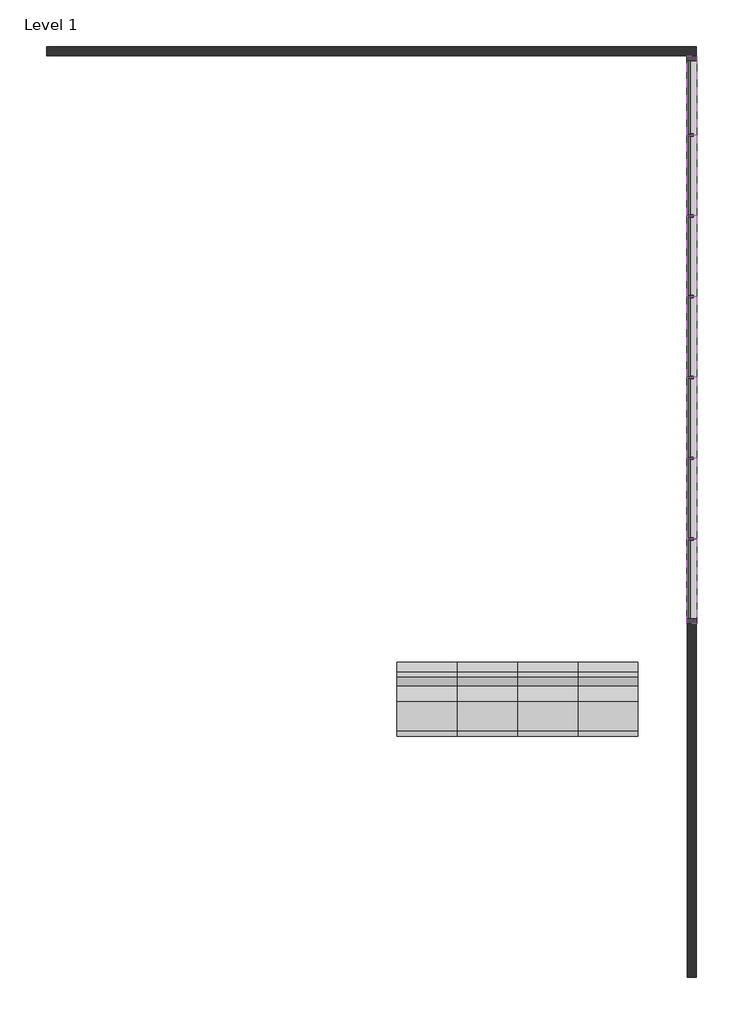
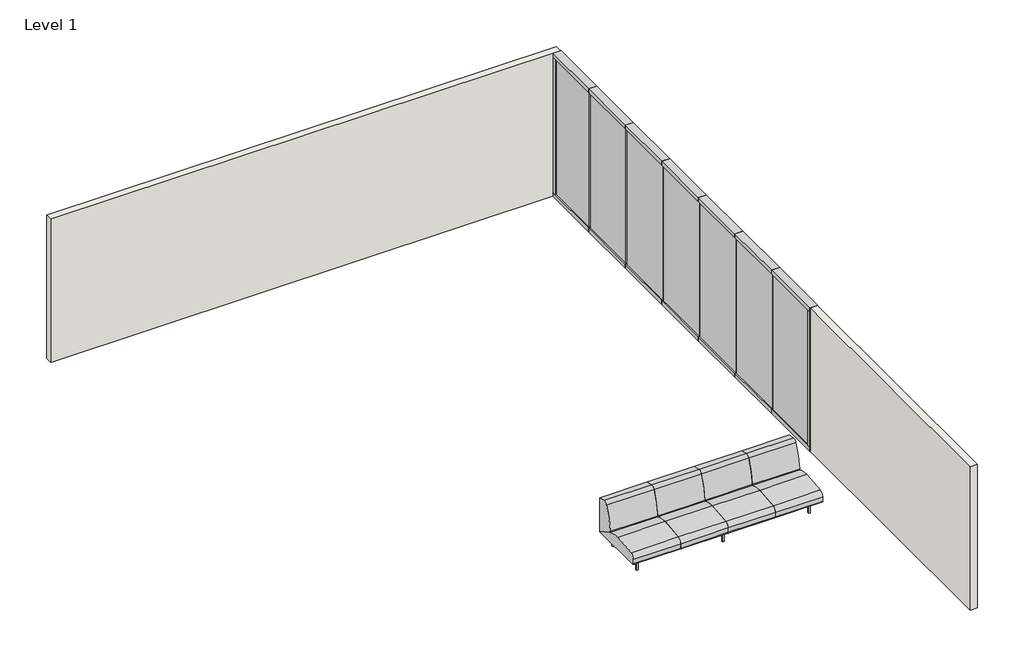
# One storey, incomplete: 22 members, 7 plates, 2 furniture elements, 2 walls.
"""IFC4 building model written with IfcOpenShell, lengths in millimetres."""

from ifc_helpers import new_model, si_unit, origin, origin_with_axes, place, context, project, spatial, polyline, outline, extrude, transform, mapped, element, save
from components import steelcase_coalesse_sistema_two_seat_leg_base_two_seat_1eb522da, steelcase_coalesse_sistema_two_seat_leg_base_two_seat_3f949230, member_c40ea337, member_f6712c19, member_9c3245fa, member_822693cb, member_03d4f0e7, system_panel_glazed_28d4eb2a, system_panel_glazed_3b5c56f7

model = new_model("IFC4")

# Units and contexts
model_context = context("Model", 3, world=origin())
ifc_project = project(units=[si_unit("LENGTHUNIT", "METRE", prefix="MILLI")], contexts=[model_context])

# Site, building, storey
site = spatial("IfcSite", under=ifc_project)
building = spatial("IfcBuilding", under=site)
storey = spatial("IfcBuildingStorey", under=building, Name="Level 1", Elevation=0.0)

# Furniture
placement = place(None, origin())
steelcase_coalesse_sistema_two_seat_leg_base_two_seat_shape = steelcase_coalesse_sistema_two_seat_leg_base_two_seat_1eb522da(model_context)
element("IfcFurniture", 1, ObjectType="Steelcase Coalesse - Sistema - Two Seat - Leg Base : Two Seat", at=placement, inside=storey, context=model_context, shape_type="MappedRepresentation", body=[
    mapped(steelcase_coalesse_sistema_two_seat_leg_base_two_seat_shape, transform((-36638.9443589, -158813.0817966, 0.0), x_axis=(1.0, 0.0, 0.0), y_axis=(0.0, 1.0, 0.0), z_axis=(0.0, 0.0, 1.0))),
])
steelcase_coalesse_sistema_two_seat_leg_base_two_seat_2_shape = steelcase_coalesse_sistema_two_seat_leg_base_two_seat_3f949230(model_context)
element("IfcFurniture", 2, ObjectType="Steelcase Coalesse - Sistema - Two Seat - Leg Base : Two Seat", at=placement, inside=storey, context=model_context, shape_type="MappedRepresentation", body=[
    mapped(steelcase_coalesse_sistema_two_seat_leg_base_two_seat_2_shape, transform((-38137.5443589, -158813.0817966, 0.0), x_axis=(1.0, 0.0, 0.0), y_axis=(0.0, 1.0, 0.0), z_axis=(0.0, 0.0, 1.0))),
])

# Members
member_shape = member_c40ea337(model_context)
element("IfcMember", 3, ObjectType="Rectangular Mullion : 0.59\" x 1.57\" rectangular", at=placement, inside=storey, context=model_context, shape_type="MappedRepresentation", body=[
    mapped(member_shape, transform((-34845.2367642, -153814.0403933, 63.5), x_axis=(0.0, -1.0, 0.0), y_axis=(-1.0, 0.0, 0.0), z_axis=(0.0, 0.0, -1.0))),
])
element("IfcMember", 4, ObjectType="Rectangular Mullion : 0.59\" x 1.57\" rectangular", at=placement, inside=storey, context=model_context, shape_type="MappedRepresentation", body=[
    mapped(member_shape, transform((-34845.2367642, -154816.8277319, 63.5), x_axis=(0.0, -1.0, 0.0), y_axis=(-1.0, 0.0, 0.0), z_axis=(0.0, 0.0, -1.0))),
])
element("IfcMember", 5, ObjectType="Rectangular Mullion : 0.59\" x 1.57\" rectangular", at=placement, inside=storey, context=model_context, shape_type="MappedRepresentation", body=[
    mapped(member_shape, transform((-34845.2367642, -155819.6150705, 63.5), x_axis=(0.0, -1.0, 0.0), y_axis=(-1.0, 0.0, 0.0), z_axis=(0.0, 0.0, -1.0))),
])
element("IfcMember", 6, ObjectType="Rectangular Mullion : 0.59\" x 1.57\" rectangular", at=placement, inside=storey, context=model_context, shape_type="MappedRepresentation", body=[
    mapped(member_shape, transform((-34845.2367642, -156822.4024092, 63.5), x_axis=(0.0, -1.0, 0.0), y_axis=(-1.0, 0.0, 0.0), z_axis=(0.0, 0.0, -1.0))),
])
element("IfcMember", 7, ObjectType="Rectangular Mullion : 0.59\" x 1.57\" rectangular", at=placement, inside=storey, context=model_context, shape_type="MappedRepresentation", body=[
    mapped(member_shape, transform((-34845.2367642, -152811.2530546, 63.5), x_axis=(0.0, -1.0, 0.0), y_axis=(-1.0, 0.0, 0.0), z_axis=(0.0, 0.0, -1.0))),
])
element("IfcMember", 8, ObjectType="Rectangular Mullion : 0.59\" x 1.57\" rectangular", at=placement, inside=storey, context=model_context, shape_type="MappedRepresentation", body=[
    mapped(member_shape, transform((-34845.2367642, -151808.465716, 63.5), x_axis=(0.0, -1.0, 0.0), y_axis=(-1.0, 0.0, 0.0), z_axis=(0.0, 0.0, -1.0))),
])
member_2_shape = member_f6712c19(model_context)
element("IfcMember", 9, ObjectType="Rectangular Mullion : 2.5\" x 5\" rectangular", at=placement, inside=storey, context=model_context, shape_type="MappedRepresentation", body=[
    mapped(member_2_shape, transform((-34845.2367642, -150820.6643771, 2336.546), x_axis=(0.0, 1.0, 0.0), y_axis=(-1.0, 0.0, 0.0), z_axis=(0.0, 0.0, 1.0))),
])
element("IfcMember", 10, ObjectType="Rectangular Mullion : 2.5\" x 5\" rectangular", at=placement, inside=storey, context=model_context, shape_type="MappedRepresentation", body=[
    mapped(member_2_shape, transform((-34845.2367642, -157873.7037481, 63.5), x_axis=(0.0, -1.0, 0.0), y_axis=(-1.0, 0.0, 0.0), z_axis=(0.0, 0.0, -1.0))),
])
member_3_shape = member_9c3245fa(model_context)
element("IfcMember", 11, ObjectType="Rectangular Mullion : 2.5\" x 5\" rectangular", at=placement, inside=storey, context=model_context, shape_type="MappedRepresentation", body=[
    mapped(member_3_shape, transform((-34845.2367642, -157873.7037481, 2400.046), x_axis=(0.0, 0.0, 1.0), y_axis=(-1.0, 0.0, 0.0), z_axis=(0.0, -1.0, 0.0))),
])
member_4_shape = member_822693cb(model_context)
element("IfcMember", 12, ObjectType="Rectangular Mullion : 2.5\" x 5\" rectangular", at=placement, inside=storey, context=model_context, shape_type="MappedRepresentation", body=[
    mapped(member_4_shape, transform((-34845.2367642, -150820.6643771, 0.0), x_axis=(0.0, 0.0, -1.0), y_axis=(-1.0, 0.0, 0.0), z_axis=(0.0, 1.0, 0.0))),
])
member_5_shape = member_03d4f0e7(model_context)
element("IfcMember", 13, ObjectType="Rectangular Mullion : 2.5\" x 5\" rectangular", at=placement, inside=storey, context=model_context, shape_type="MappedRepresentation", body=[
    mapped(member_5_shape, transform((-34845.2367642, -153814.0403933, 2400.046), x_axis=(0.0, 0.0, 1.0), y_axis=(-1.0, 0.0, 0.0), z_axis=(0.0, -1.0, 0.0))),
])
element("IfcMember", 14, ObjectType="Rectangular Mullion : 2.5\" x 5\" rectangular", at=placement, inside=storey, context=model_context, shape_type="MappedRepresentation", body=[
    mapped(member_5_shape, transform((-34845.2367642, -154816.8277319, 2400.046), x_axis=(0.0, 0.0, 1.0), y_axis=(-1.0, 0.0, 0.0), z_axis=(0.0, -1.0, 0.0))),
])
element("IfcMember", 15, ObjectType="Rectangular Mullion : 2.5\" x 5\" rectangular", at=placement, inside=storey, context=model_context, shape_type="MappedRepresentation", body=[
    mapped(member_5_shape, transform((-34845.2367642, -155819.6150705, 2400.046), x_axis=(0.0, 0.0, 1.0), y_axis=(-1.0, 0.0, 0.0), z_axis=(0.0, -1.0, 0.0))),
])
element("IfcMember", 16, ObjectType="Rectangular Mullion : 2.5\" x 5\" rectangular", at=placement, inside=storey, context=model_context, shape_type="MappedRepresentation", body=[
    mapped(member_5_shape, transform((-34845.2367642, -156822.4024092, 2400.046), x_axis=(0.0, 0.0, 1.0), y_axis=(-1.0, 0.0, 0.0), z_axis=(0.0, -1.0, 0.0))),
])
element("IfcMember", 17, ObjectType="Rectangular Mullion : 2.5\" x 5\" rectangular", at=placement, inside=storey, context=model_context, shape_type="MappedRepresentation", body=[
    mapped(member_5_shape, transform((-34845.2367642, -152811.2530546, 2400.046), x_axis=(0.0, 0.0, 1.0), y_axis=(-1.0, 0.0, 0.0), z_axis=(0.0, -1.0, 0.0))),
])
element("IfcMember", 18, ObjectType="Rectangular Mullion : 2.5\" x 5\" rectangular", at=placement, inside=storey, context=model_context, shape_type="MappedRepresentation", body=[
    mapped(member_5_shape, transform((-34845.2367642, -153814.0403933, 0.0), x_axis=(0.0, 0.0, -1.0), y_axis=(-1.0, 0.0, 0.0), z_axis=(0.0, 1.0, 0.0))),
])
element("IfcMember", 19, ObjectType="Rectangular Mullion : 2.5\" x 5\" rectangular", at=placement, inside=storey, context=model_context, shape_type="MappedRepresentation", body=[
    mapped(member_5_shape, transform((-34845.2367642, -154816.8277319, 0.0), x_axis=(0.0, 0.0, -1.0), y_axis=(-1.0, 0.0, 0.0), z_axis=(0.0, 1.0, 0.0))),
])
element("IfcMember", 20, ObjectType="Rectangular Mullion : 2.5\" x 5\" rectangular", at=placement, inside=storey, context=model_context, shape_type="MappedRepresentation", body=[
    mapped(member_5_shape, transform((-34845.2367642, -155819.6150705, 0.0), x_axis=(0.0, 0.0, -1.0), y_axis=(-1.0, 0.0, 0.0), z_axis=(0.0, 1.0, 0.0))),
])
element("IfcMember", 21, ObjectType="Rectangular Mullion : 2.5\" x 5\" rectangular", at=placement, inside=storey, context=model_context, shape_type="MappedRepresentation", body=[
    mapped(member_5_shape, transform((-34845.2367642, -152811.2530546, 0.0), x_axis=(0.0, 0.0, -1.0), y_axis=(-1.0, 0.0, 0.0), z_axis=(0.0, 1.0, 0.0))),
])
element("IfcMember", 22, ObjectType="Rectangular Mullion : 2.5\" x 5\" rectangular", at=placement, inside=storey, context=model_context, shape_type="MappedRepresentation", body=[
    mapped(member_5_shape, transform((-34845.2367642, -151808.465716, 0.0), x_axis=(0.0, 0.0, -1.0), y_axis=(-1.0, 0.0, 0.0), z_axis=(0.0, 1.0, 0.0))),
])
element("IfcMember", 23, ObjectType="Rectangular Mullion : 2.5\" x 5\" rectangular", at=placement, inside=storey, context=model_context, shape_type="MappedRepresentation", body=[
    mapped(member_3_shape, transform((-34845.2367642, -156822.4024092, 0.0), x_axis=(0.0, 0.0, -1.0), y_axis=(-1.0, 0.0, 0.0), z_axis=(0.0, 1.0, 0.0))),
])
element("IfcMember", 24, ObjectType="Rectangular Mullion : 2.5\" x 5\" rectangular", at=placement, inside=storey, context=model_context, shape_type="MappedRepresentation", body=[
    mapped(member_4_shape, transform((-34845.2367642, -151808.465716, 2400.046), x_axis=(0.0, 0.0, 1.0), y_axis=(-1.0, 0.0, 0.0), z_axis=(0.0, -1.0, 0.0))),
])

# Plates
system_panel_glazed_shape = system_panel_glazed_28d4eb2a(model_context)
element("IfcPlate", 25, ObjectType="System Panel : Glazed", at=placement, inside=storey, context=model_context, shape_type="MappedRepresentation", body=[
    mapped(system_panel_glazed_shape, transform((-34845.2367642, -151338.8220465, 63.5), x_axis=(0.0, -1.0, 0.0), y_axis=(1.0, 0.0, 0.0), z_axis=(0.0, 0.0, 1.0))),
])
system_panel_glazed_2_shape = system_panel_glazed_3b5c56f7(model_context)
element("IfcPlate", 26, ObjectType="System Panel : Glazed", at=placement, inside=storey, context=model_context, shape_type="MappedRepresentation", body=[
    mapped(system_panel_glazed_2_shape, transform((-34845.2367642, -154315.4340626, 63.5), x_axis=(0.0, -1.0, 0.0), y_axis=(1.0, 0.0, 0.0), z_axis=(0.0, 0.0, 1.0))),
])
element("IfcPlate", 27, ObjectType="System Panel : Glazed", at=placement, inside=storey, context=model_context, shape_type="MappedRepresentation", body=[
    mapped(system_panel_glazed_2_shape, transform((-34845.2367642, -155318.2214012, 63.5), x_axis=(0.0, -1.0, 0.0), y_axis=(1.0, 0.0, 0.0), z_axis=(0.0, 0.0, 1.0))),
])
element("IfcPlate", 28, ObjectType="System Panel : Glazed", at=placement, inside=storey, context=model_context, shape_type="MappedRepresentation", body=[
    mapped(system_panel_glazed_2_shape, transform((-34845.2367642, -156321.0087398, 63.5), x_axis=(0.0, -1.0, 0.0), y_axis=(1.0, 0.0, 0.0), z_axis=(0.0, 0.0, 1.0))),
])
element("IfcPlate", 29, ObjectType="System Panel : Glazed", at=placement, inside=storey, context=model_context, shape_type="MappedRepresentation", body=[
    mapped(system_panel_glazed_2_shape, transform((-34845.2367642, -157323.7960786, 63.5), x_axis=(0.0, -1.0, 0.0), y_axis=(1.0, 0.0, 0.0), z_axis=(0.0, 0.0, 1.0))),
])
element("IfcPlate", 30, ObjectType="System Panel : Glazed", at=placement, inside=storey, context=model_context, shape_type="MappedRepresentation", body=[
    mapped(system_panel_glazed_2_shape, transform((-34845.2367642, -153312.6467239, 63.5), x_axis=(0.0, -1.0, 0.0), y_axis=(1.0, 0.0, 0.0), z_axis=(0.0, 0.0, 1.0))),
])
element("IfcPlate", 31, ObjectType="System Panel : Glazed", at=placement, inside=storey, context=model_context, shape_type="MappedRepresentation", body=[
    mapped(system_panel_glazed_2_shape, transform((-34845.2367642, -152309.8593853, 63.5), x_axis=(0.0, -1.0, 0.0), y_axis=(1.0, 0.0, 0.0), z_axis=(0.0, 0.0, 1.0))),
])

# Walls
element("IfcWall", 32, ObjectType="4.43 in", at=placement, inside=storey, context=model_context, shape_type="SweptSolid", body=[
    extrude(outline(polyline([(-34790.1825027, -150820.6643723), (-42863.8308807, -150820.6650777), (-42863.8308905, -150708.1430777), (-34790.1825125, -150708.1423723), (-34790.1825027, -150820.6643723)])), origin_with_axes(), (0.0, 0.0, 1.0), 2400.046),
])
element("IfcWall", 33, ObjectType="4.43 in", at=placement, inside=storey, context=model_context, shape_type="SweptSolid", body=[
    extrude(outline(polyline([(-34788.9757642, -157873.7037481), (-34788.9757642, -162266.1026225), (-34901.4977642, -162266.1026225), (-34901.4977642, -157873.7037481), (-34788.9757642, -157873.7037481)])), origin_with_axes(), (0.0, 0.0, 1.0), 2400.046),
])

save(model, "model.ifc")
